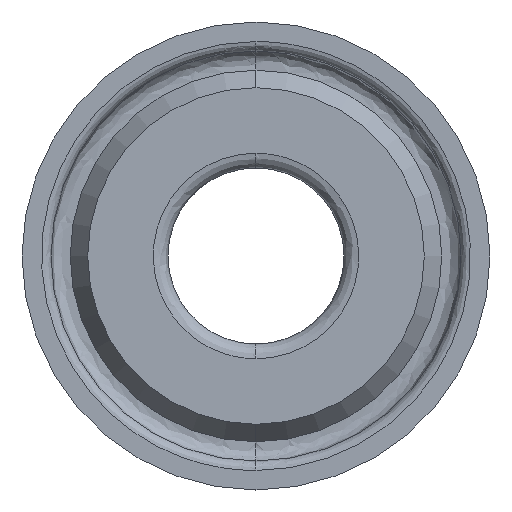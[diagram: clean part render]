
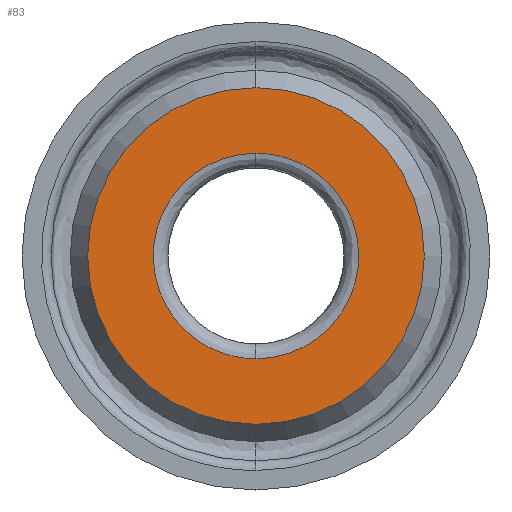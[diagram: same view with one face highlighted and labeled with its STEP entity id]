
A CAD part, left-side view. The second image highlights one B-rep face of the part: STEP entity #83.
In plain terms, the highlighted planar face has unit normal (-1, 0, 0).
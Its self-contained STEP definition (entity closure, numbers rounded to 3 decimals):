
#5 = CARTESIAN_POINT ( 'NONE',  ( 0.787, 0., 0. ) ) ;
#24 = FACE_BOUND ( 'NONE', #786, .T. ) ;
#61 = CIRCLE ( 'NONE', #625, 8.987 ) ;
#83 = ADVANCED_FACE ( 'NONE', ( #505, #24 ), #655, .F. ) ;
#128 = CARTESIAN_POINT ( 'NONE',  ( 0.787, -10.973, -5.486 ) ) ;
#136 = CIRCLE ( 'NONE', #211, 8.987 ) ;
#192 = DIRECTION ( 'NONE',  ( 1., 0., 0. ) ) ;
#200 = EDGE_CURVE ( 'NONE', #442, #328, #136, .T. ) ;
#211 = AXIS2_PLACEMENT_3D ( 'NONE', #5, #192, #550 ) ;
#214 = VERTEX_POINT ( 'NONE', #256 ) ;
#245 = DIRECTION ( 'NONE',  ( 1., 0., 0. ) ) ;
#256 = CARTESIAN_POINT ( 'NONE',  ( 0.787, 0., 5.486 ) ) ;
#282 = EDGE_CURVE ( 'NONE', #457, #214, #765, .T. ) ;
#287 = ORIENTED_EDGE ( 'NONE', *, *, #200, .F. ) ;
#288 = ORIENTED_EDGE ( 'NONE', *, *, #282, .F. ) ;
#293 = DIRECTION ( 'NONE',  ( 1., 0., 0. ) ) ;
#328 = VERTEX_POINT ( 'NONE', #788 ) ;
#350 = CARTESIAN_POINT ( 'NONE',  ( 0.787, 0., -5.486 ) ) ;
#353 = EDGE_CURVE ( 'NONE', #328, #442, #61, .T. ) ;
#369 = CARTESIAN_POINT ( 'NONE',  ( 0.787, 5.486, 0. ) ) ;
#374 = CARTESIAN_POINT ( 'NONE',  ( 0.787, -10.973, 5.486 ) ) ;
#410 = CARTESIAN_POINT ( 'NONE',  ( 0.787, 0., 5.486 ) ) ;
#435 = CARTESIAN_POINT ( 'NONE',  ( 0.787, 0., -5.486 ) ) ;
#441 = ORIENTED_EDGE ( 'NONE', *, *, #353, .F. ) ;
#442 = VERTEX_POINT ( 'NONE', #773 ) ;
#445 = CARTESIAN_POINT ( 'NONE',  ( 0.787, 0., -5.486 ) ) ;
#457 = VERTEX_POINT ( 'NONE', #445 ) ;
#505 = FACE_OUTER_BOUND ( 'NONE', #720, .T. ) ;
#550 = DIRECTION ( 'NONE',  ( 0., 0., -1. ) ) ;
#594 = DIRECTION ( 'NONE',  ( 0., 0., -1. ) ) ;
#625 = AXIS2_PLACEMENT_3D ( 'NONE', #642, #293, #704 ) ;
#631 = ORIENTED_EDGE ( 'NONE', *, *, #779, .F. ) ;
#636 = CARTESIAN_POINT ( 'NONE',  ( 0.787, 10.973, 5.486 ) ) ;
#642 = CARTESIAN_POINT ( 'NONE',  ( 0.787, 0., 0. ) ) ;
#655 = PLANE ( 'NONE',  #657 ) ;
#657 = AXIS2_PLACEMENT_3D ( 'NONE', #369, #245, #594 ) ;
#703 = CARTESIAN_POINT ( 'NONE',  ( 0.787, 10.973, -5.486 ) ) ;
#704 = DIRECTION ( 'NONE',  ( 0., 0., -1. ) ) ;
#719 =( BOUNDED_CURVE ( )  B_SPLINE_CURVE ( 3, ( #410, #636, #703, #350 ),
 .UNSPECIFIED., .F., .T. ) 
 B_SPLINE_CURVE_WITH_KNOTS ( ( 4, 4 ),
 ( 0., 1. ),
 .UNSPECIFIED. ) 
 CURVE ( )  GEOMETRIC_REPRESENTATION_ITEM ( )  RATIONAL_B_SPLINE_CURVE ( ( 1., 0.333, 0.333, 1. ) ) 
 REPRESENTATION_ITEM ( '' )  );
#720 = EDGE_LOOP ( 'NONE', ( #287, #441 ) ) ;
#739 = CARTESIAN_POINT ( 'NONE',  ( 0.787, 0., 5.486 ) ) ;
#765 =( BOUNDED_CURVE ( )  B_SPLINE_CURVE ( 3, ( #435, #128, #374, #739 ),
 .UNSPECIFIED., .F., .F. ) 
 B_SPLINE_CURVE_WITH_KNOTS ( ( 4, 4 ),
 ( 0., 1. ),
 .UNSPECIFIED. ) 
 CURVE ( )  GEOMETRIC_REPRESENTATION_ITEM ( )  RATIONAL_B_SPLINE_CURVE ( ( 1., 0.333, 0.333, 1. ) ) 
 REPRESENTATION_ITEM ( '' )  );
#773 = CARTESIAN_POINT ( 'NONE',  ( 0.787, 0., -8.987 ) ) ;
#779 = EDGE_CURVE ( 'NONE', #214, #457, #719, .T. ) ;
#786 = EDGE_LOOP ( 'NONE', ( #288, #631 ) ) ;
#788 = CARTESIAN_POINT ( 'NONE',  ( 0.787, 0., 8.987 ) ) ;
